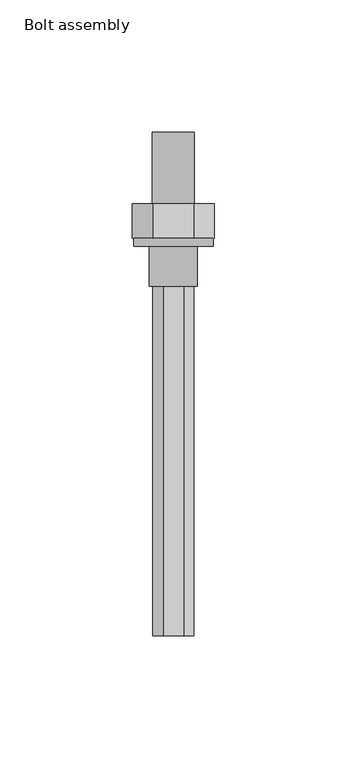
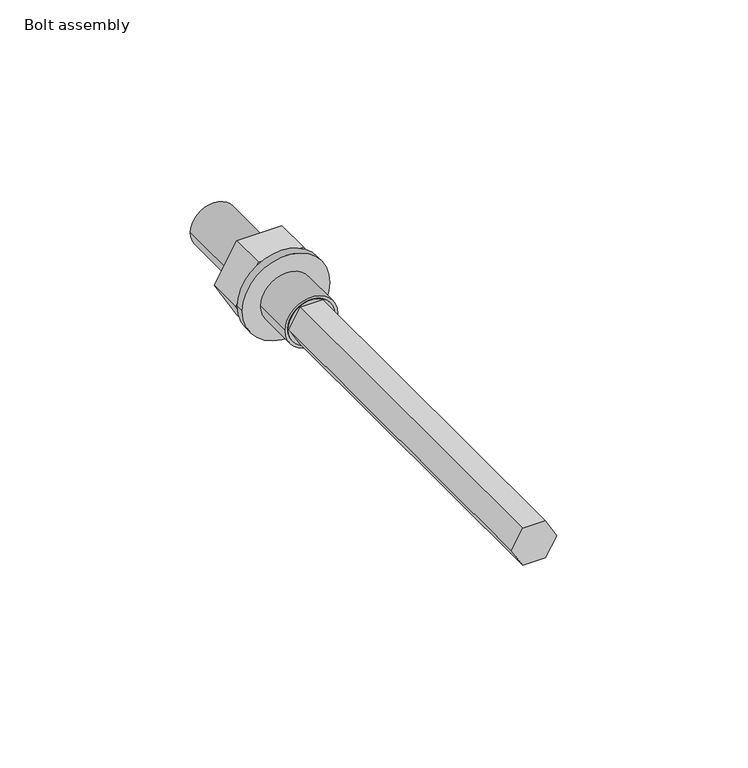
"""IFC4 building model written with IfcOpenShell, lengths in millimetres: proxy geometry, Bolt assembly."""

from ifc_helpers import new_model, si_unit, point, frame, origin, origin_2d, place, context, project, spatial, polyline, circle_curve, trimmed, segment, composite_curve, outline, extrude, source, transform, mapped, element, save


def bolt_assembly_dc997c6e(model_context):
    return source(origin(), model_context, "Body", "SweptSolid", [
        extrude(outline(polyline([(0.0, 7.7364934), (6.6999998, 3.8682467), (6.6999998, -3.8682467), (0.0, -7.7364934), (-6.6999998, -3.8682467), (-6.6999998, 3.8682467), (0.0, 7.7364934)])), frame((0.0, -147.0, 0.0), z_axis=(0.0, 1.0, 0.0), x_axis=(0.0, 0.0, 1.0)), (0.0, 0.0, 1.0), 132.0),
        extrude(outline(composite_curve([segment(trimmed(circle_curve(origin_2d(), 8.0), [point((0.0, 8.0))], [point((0.0, -8.0))], False, "CARTESIAN"), True, "CONTINUOUS"), segment(trimmed(circle_curve(origin_2d(), 8.0), [point((0.0, -8.0))], [point((0.0, 8.0))], False, "CARTESIAN"), True, "CONTINUOUS")], self_intersect=False)), frame((0.0, -15.0, 0.0), z_axis=(0.0, 1.0, 0.0), x_axis=(0.0, 0.0, 1.0)), (0.0, 0.0, 1.0), 58.0),
        extrude(outline(composite_curve([segment(trimmed(circle_curve(origin_2d(), 15.0), [point((0.0, 15.0))], [point((0.0, -15.0))], False, "CARTESIAN"), True, "CONTINUOUS"), segment(trimmed(circle_curve(origin_2d(), 15.0), [point((0.0, -15.0))], [point((0.0, 15.0))], False, "CARTESIAN"), True, "CONTINUOUS")], self_intersect=False)), frame((0.0, 0.0, 0.0), z_axis=(0.0, 1.0, 0.0), x_axis=(0.0, 0.0, 1.0)), (0.0, 0.0, 1.0), 3.0),
        extrude(outline(polyline([(0.0, 15.4441197), (13.375, 7.7220599), (13.375, -7.7220599), (0.0, -15.4441197), (-13.375, -7.7220599), (-13.375, 7.7220599), (0.0, 15.4441197)])), frame((0.0, 3.0, 0.0), z_axis=(0.0, 1.0, 0.0), x_axis=(0.0, 0.0, 1.0)), (0.0, 0.0, 1.0), 13.0),
        extrude(outline(composite_curve([segment(trimmed(circle_curve(origin_2d(), 9.0), [point((0.0, 9.0))], [point((0.0, -9.0))], False, "CARTESIAN"), True, "CONTINUOUS"), segment(trimmed(circle_curve(origin_2d(), 9.0), [point((0.0, -9.0))], [point((0.0, 9.0))], False, "CARTESIAN"), True, "CONTINUOUS")], self_intersect=False)), frame((0.0, -15.0, 0.0), z_axis=(0.0, 1.0, 0.0), x_axis=(0.0, 0.0, 1.0)), (0.0, 0.0, 1.0), 15.1),
    ])


if __name__ == "__main__":
    model = new_model("IFC4")
    model_context = context("Model", 3, world=origin())
    ifc_project = project(units=[si_unit("LENGTHUNIT", "METRE", prefix="MILLI")], contexts=[model_context])
    site = spatial("IfcSite", under=ifc_project)
    building = spatial("IfcBuilding", under=site)
    placement = place(None, origin())
    bolt_assembly_shape = bolt_assembly_dc997c6e(model_context)
    element("IfcBuildingElementProxy", 1, Name="Bolt assembly", ObjectType="Bolt assembly", at=placement, inside=building, context=model_context, shape_type="MappedRepresentation", body=[
        mapped(bolt_assembly_shape, transform((0.0, 0.0, 0.0), x_axis=(1.0, 0.0, 0.0), y_axis=(0.0, 1.0, 0.0), z_axis=(0.0, 0.0, 1.0))),
    ])
    save(model, "model.ifc")
